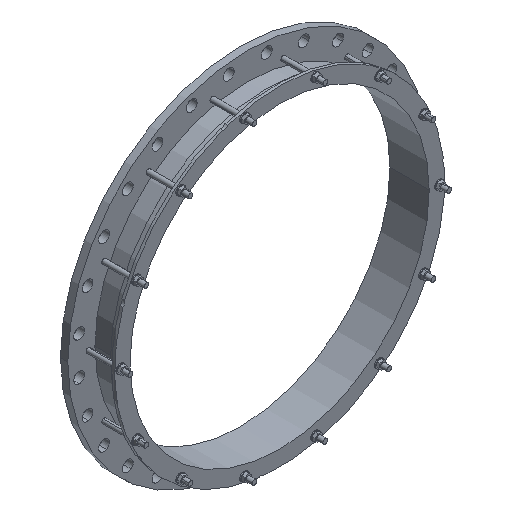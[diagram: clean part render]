
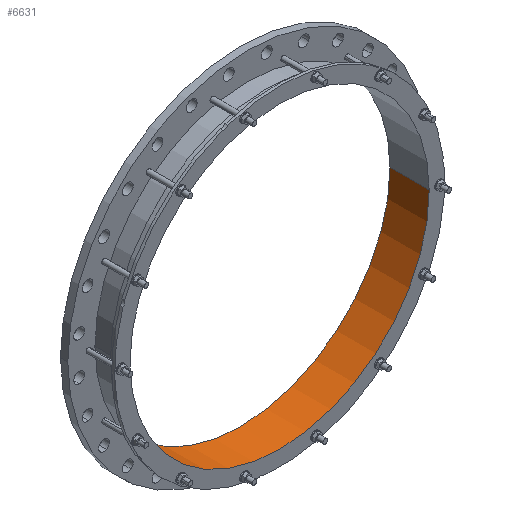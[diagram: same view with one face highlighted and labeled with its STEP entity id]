
A CAD part, isometric view. The second image highlights one B-rep face of the part: STEP entity #6631.
In plain terms, the highlighted cylindrical face has radius 511.25 mm (diameter 1022.5 mm), a partial arc.
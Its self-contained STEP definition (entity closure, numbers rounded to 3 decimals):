
#7=CARTESIAN_POINT('',(0.,25.,0.));
#8=DIRECTION('',(0.,1.,0.));
#9=DIRECTION('',(1.,0.,0.));
#10=AXIS2_PLACEMENT_3D('',#7,#8,#9);
#2348=CARTESIAN_POINT('',(0.,-109.,0.));
#2349=DIRECTION('',(0.,1.,0.));
#2350=DIRECTION('',(1.,0.,0.));
#2351=AXIS2_PLACEMENT_3D('',#2348,#2349,#2350);
#2353=DIRECTION('',(0.,1.,0.));
#2354=VECTOR('',#2353,134.);
#2355=CARTESIAN_POINT('',(511.25,-109.,0.));
#2356=LINE('',#2355,#2354);
#2357=DIRECTION('',(0.,1.,0.));
#2358=VECTOR('',#2357,134.);
#2359=CARTESIAN_POINT('',(-511.25,-109.,0.));
#2360=LINE('',#2359,#2358);
#4543=CARTESIAN_POINT('',(511.25,-109.,0.));
#4544=CARTESIAN_POINT('',(511.25,25.,0.));
#4545=VERTEX_POINT('',#4543);
#4546=VERTEX_POINT('',#4544);
#4551=CARTESIAN_POINT('',(-511.25,-109.,0.));
#4552=CARTESIAN_POINT('',(-511.25,25.,0.));
#4553=VERTEX_POINT('',#4551);
#4554=VERTEX_POINT('',#4552);
#6618=CARTESIAN_POINT('',(0.,-115.7,0.));
#6619=DIRECTION('',(0.,1.,0.));
#6620=DIRECTION('',(-1.,0.,0.));
#6621=AXIS2_PLACEMENT_3D('',#6618,#6619,#6620);
#6622=CYLINDRICAL_SURFACE('',#6621,511.25);
#6624=ORIENTED_EDGE('',*,*,#6623,.F.);
#6625=ORIENTED_EDGE('',*,*,#6611,.T.);
#6627=ORIENTED_EDGE('',*,*,#6626,.T.);
#6628=ORIENTED_EDGE('',*,*,#5564,.F.);
#6629=EDGE_LOOP('',(#6624,#6625,#6627,#6628));
#6630=FACE_OUTER_BOUND('',#6629,.F.);
#6631=ADVANCED_FACE('',(#6630),#6622,.F.);
#11=CIRCLE('',#10,511.25);
#2352=CIRCLE('',#2351,511.25);
#5564=EDGE_CURVE('',#4546,#4554,#11,.T.);
#6611=EDGE_CURVE('',#4545,#4553,#2352,.T.);
#6623=EDGE_CURVE('',#4545,#4546,#2356,.T.);
#6626=EDGE_CURVE('',#4553,#4554,#2360,.T.);
